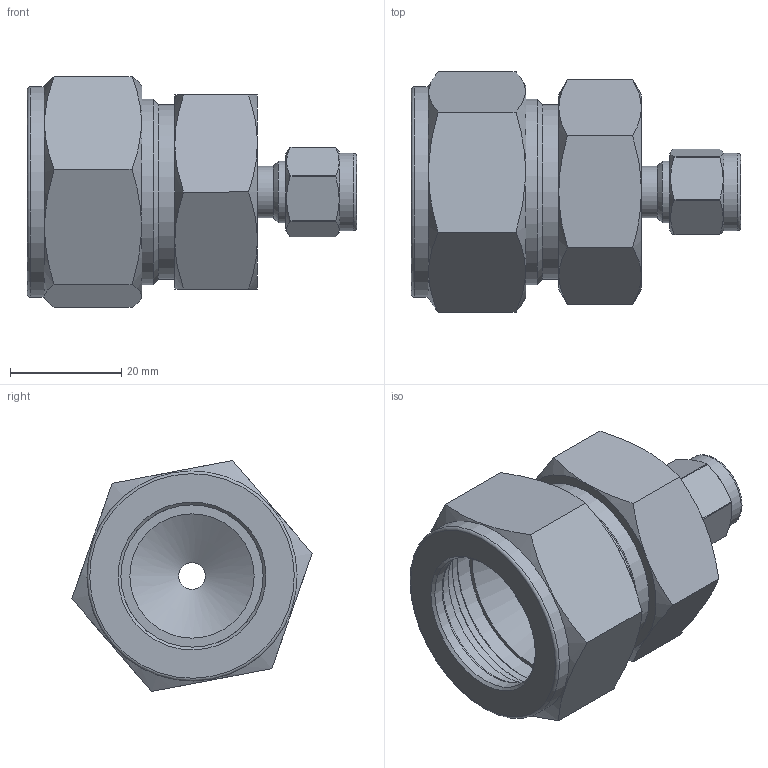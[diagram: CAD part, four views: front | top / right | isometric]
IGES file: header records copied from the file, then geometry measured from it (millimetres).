
Global section: file name: No Iges File Name specified; native system: Autodesk Inventor 2012; preprocessor: AutoDesk Inventor Iges Exporter R2012; author: 硅己绕,,1; organization: 1; date: 20150428.160202; units: millimetre
Bounding box: 59.2 x 43.22 x 41.53 mm (x, y, z)
Volume: 26342.2 mm3; surface area: 14677.2 mm2
Topology: 3 solids, 3 shells, 94 faces, 196 edges, 117 vertices
Faces by surface type: plane 33, revolution 23, cone 20, cylinder 14, torus 4
Full cylindrical faces by diameter (mm): 9.3 x1, 9.4 x1, 11.112 x1, 13.9 x1, 31.45 x2, 33.34 x1, 37.8 x1
